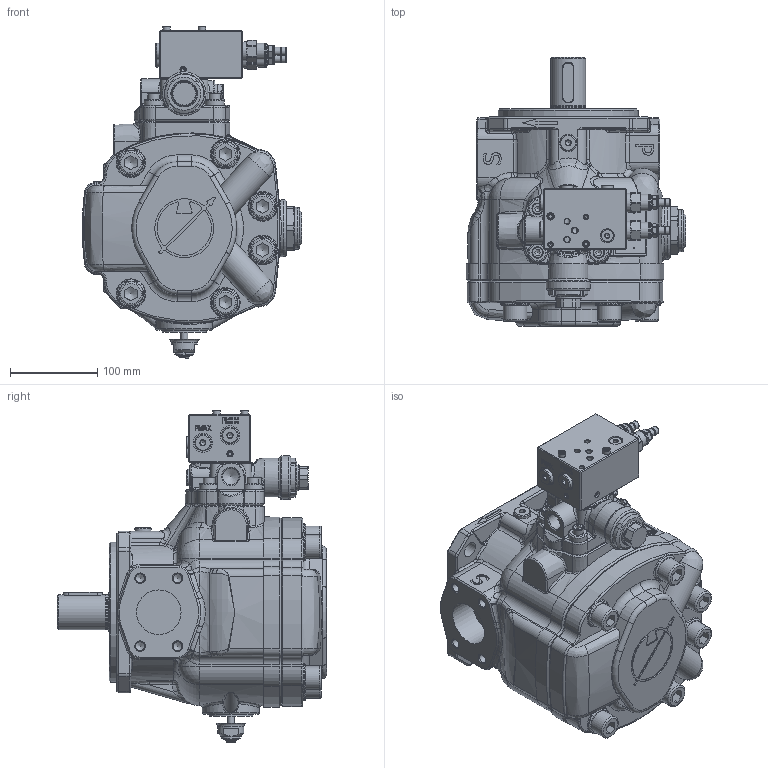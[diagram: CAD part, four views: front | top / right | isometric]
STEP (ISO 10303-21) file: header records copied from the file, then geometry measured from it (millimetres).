
FILE_DESCRIPTION(/* description */ (''),/* implementation_level */ '2;1');
FILE_NAME(/* name */ 'W:\Tecnico\Archivio\Berarma\Dimensioni Pompe\3D Export\Montaggio 3D semplificato\PLP-PHP 3\PHP 3 PCS004.stp',/* time_stamp */ '2018-10-10T08:38:04+02:00',/* author */ ('marcop'),/* organization */ (''),/* preprocessor_version */ 'ST-DEVELOPER v17',/* originating_system */ 'Autodesk Inventor 2018',/* authorisation */ '');
FILE_SCHEMA (('AUTOMOTIVE_DESIGN { 1 0 10303 214 3 1 1 }'));
Products named in the file (1): PLP-PHP 3_Shrinkwrap_1
Bounding box: 251.18 x 308 x 380.1 mm (x, y, z)
Volume: 7157231 mm3; surface area: 579452 mm2
Topology: 2 solids, 2 shells, 2485 faces, 6352 edges, 3972 vertices
Faces by surface type: plane 899, cylinder 585, bspline 464, cone 252, torus 241, sphere 44
Full cylindrical faces by diameter (mm): 0.9 x6, 1.7 x4, 3 x2, 3.15 x1, 4 x2, 4.134 x2, 5.5 x2, 6 x2, 6.5 x8, 7.2 x1, 7.671 x4, 8 x2, 8.376 x4, 8.5 x2, 8.566 x4, 9.347 x4, 9.5 x2, 10.106 x4, 11.445 x2, 12 x5, 13 x4, 13.487 x2, 13.5 x2, 13.767 x4, 14 x4, 14.224 x2, 14.63 x2, 15.5 x1, 16 x3, 17.374 x2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
Entity records: 93011 total; most frequent: CARTESIAN_POINT 32957, ORIENTED_EDGE 12526, DIRECTION 11451, EDGE_CURVE 6263, AXIS2_PLACEMENT_3D 4487, VERTEX_POINT 3972, EDGE_LOOP 2697, STYLED_ITEM 2487
